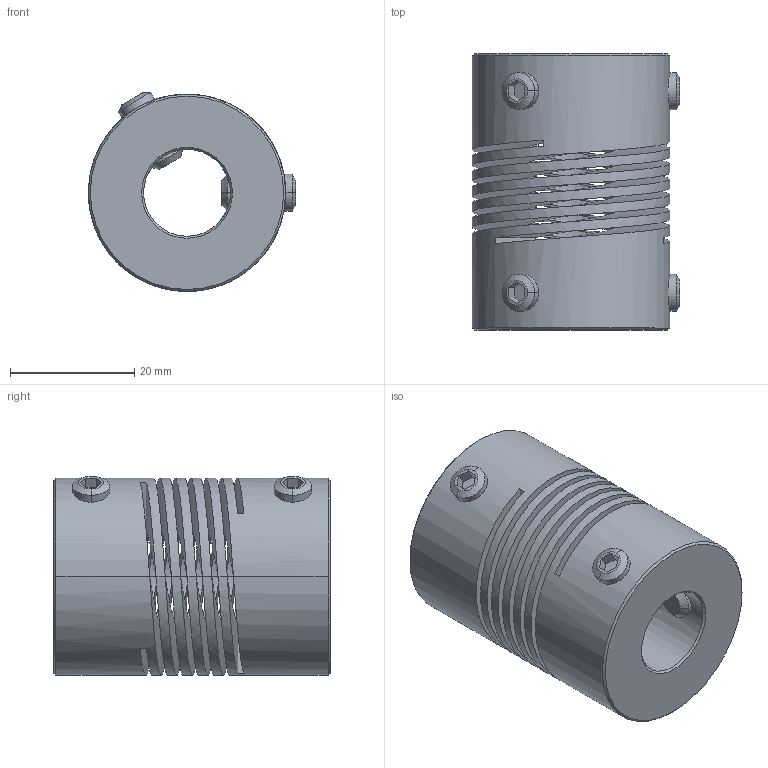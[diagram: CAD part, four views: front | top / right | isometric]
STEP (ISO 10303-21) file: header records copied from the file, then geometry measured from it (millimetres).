
FILE_DESCRIPTION((''),'2;1');
FILE_NAME('724_32_ASM','2006-12-05T',('Gary Melling'),(''),'PRO/ENGINEER BY PARAMETRIC TECHNOLOGY CORPORATION, 2006240','PRO/ENGINEER BY PARAMETRIC TECHNOLOGY CORPORATION, 2006240','');
FILE_SCHEMA(('CONFIG_CONTROL_DESIGN'));
Length unit declared in the file: millimetre
Products named in the file (3): 724_32; GS_6M; 724_32_ASM
Assembly tree (5 placements, depth 2):
  724_32_ASM
    724_32
    GS_6M  x4
Bounding box: 33.4 x 44.5 x 32.06 mm (x, y, z)
Volume: 24358 mm3; surface area: 16251.5 mm2
Topology: 5 solids, 5 shells, 120 faces, 318 edges, 204 vertices
Faces by surface type: plane 46, cylinder 44, cone 24, bspline 6
Entity records: 4625 total; most frequent: CARTESIAN_POINT 2652, ORIENTED_EDGE 444, DIRECTION 320, EDGE_CURVE 222, VERTEX_POINT 144, AXIS2_PLACEMENT_3D 109, VECTOR 102, LINE 102
